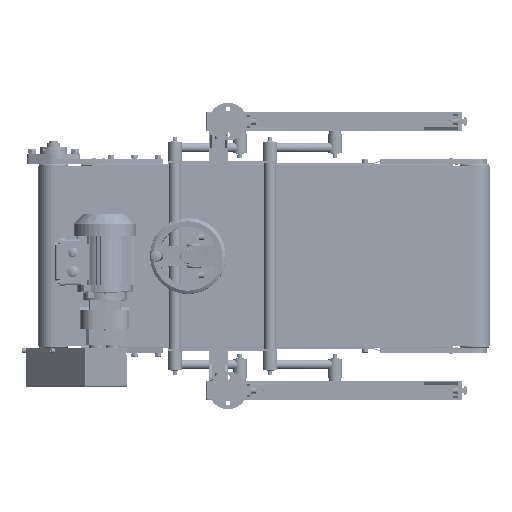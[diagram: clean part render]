
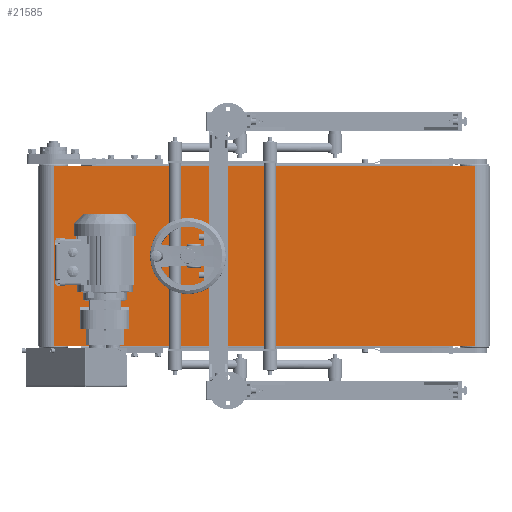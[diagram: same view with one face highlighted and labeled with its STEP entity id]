
A CAD part, front view. The second image highlights one B-rep face of the part: STEP entity #21585.
In plain terms, the highlighted planar face has unit normal (0, -1, 0).
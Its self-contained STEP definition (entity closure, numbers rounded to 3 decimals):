
#14691=PLANE('',#143077);
#21585=ADVANCED_FACE('',(#30508),#14691,.F.);
#30508=FACE_OUTER_BOUND('',#37638,.T.);
#37638=EDGE_LOOP('',(#85179,#85180,#85181,#85182));
#46884=LINE('',#211024,#58395);
#46887=LINE('',#211038,#58398);
#46888=LINE('',#211041,#58399);
#46889=LINE('',#211042,#58400);
#58395=VECTOR('',#169183,1.);
#58398=VECTOR('',#169200,1.);
#58399=VECTOR('',#169201,1.);
#58400=VECTOR('',#169202,1.);
#85179=ORIENTED_EDGE('',*,*,#122667,.F.);
#85180=ORIENTED_EDGE('',*,*,#122668,.T.);
#85181=ORIENTED_EDGE('',*,*,#122660,.T.);
#85182=ORIENTED_EDGE('',*,*,#122669,.F.);
#107064=VERTEX_POINT('',#211018);
#107067=VERTEX_POINT('',#211023);
#107072=VERTEX_POINT('',#211039);
#107073=VERTEX_POINT('',#211040);
#122660=EDGE_CURVE('',#107064,#107067,#46884,.T.);
#122667=EDGE_CURVE('',#107072,#107073,#46887,.T.);
#122668=EDGE_CURVE('',#107072,#107064,#46888,.T.);
#122669=EDGE_CURVE('',#107073,#107067,#46889,.T.);
#143077=AXIS2_PLACEMENT_3D('',#211043,#169203,#169204);
#169183=DIRECTION('',(0.,0.,1.));
#169200=DIRECTION('',(0.,0.,1.));
#169201=DIRECTION('',(1.,0.,0.));
#169202=DIRECTION('',(1.,0.,0.));
#169203=DIRECTION('',(0.,1.,0.));
#169204=DIRECTION('',(1.,0.,0.));
#211018=CARTESIAN_POINT('',(464.545,21.536,-190.));
#211023=CARTESIAN_POINT('',(464.545,21.536,190.));
#211024=CARTESIAN_POINT('',(464.545,21.536,190.));
#211038=CARTESIAN_POINT('',(-420.455,21.536,190.));
#211039=CARTESIAN_POINT('',(-420.455,21.536,-190.));
#211040=CARTESIAN_POINT('',(-420.455,21.536,190.));
#211041=CARTESIAN_POINT('',(-420.455,21.536,-190.));
#211042=CARTESIAN_POINT('',(-420.455,21.536,190.));
#211043=CARTESIAN_POINT('',(-420.455,21.536,190.));
